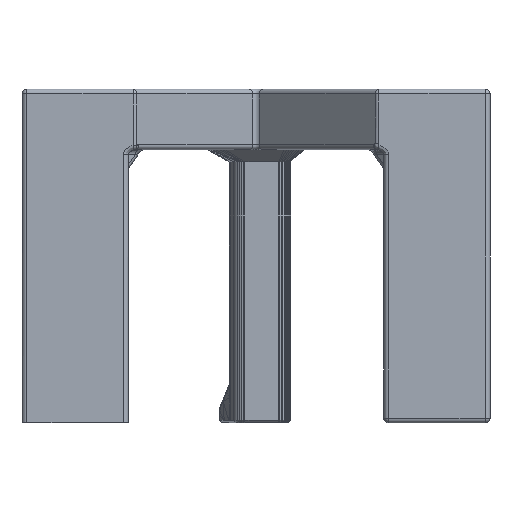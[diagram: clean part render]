
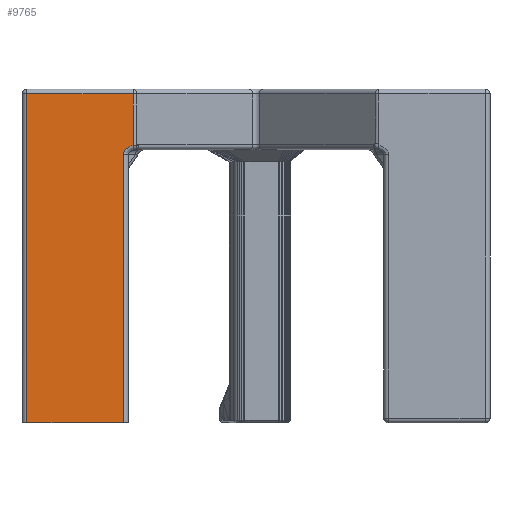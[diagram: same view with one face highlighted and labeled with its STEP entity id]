
A CAD part, front view. The second image highlights one B-rep face of the part: STEP entity #9765.
In plain terms, the highlighted planar face has unit normal (0, -1, 0).
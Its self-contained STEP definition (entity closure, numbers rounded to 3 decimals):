
#121=B_SPLINE_CURVE_WITH_KNOTS('',3,(#15658,#15659,#15660,#15661,#15662,
#15663,#15664,#15665,#15666,#15667,#15668,#15669,#15670,#15671,#15672,#15673,
#15674,#15675,#15676,#15677,#15678,#15679,#15680,#15681,#15682,#15683,#15684,
#15685,#15686,#15687,#15688,#15689,#15690,#15691,#15692,#15693,#15694,#15695,
#15696,#15697,#15698,#15699,#15700,#15701,#15702,#15703,#15704,#15705,#15706,
#15707,#15708,#15709,#15710,#15711,#15712,#15713,#15714,#15715,#15716,#15717,
#15718,#15719,#15720,#15721),.UNSPECIFIED.,.F.,.F.,(4,3,3,3,3,3,3,3,3,3,
3,3,3,3,3,3,3,3,3,3,3,4),(3.142,3.214,3.286,
3.308,3.379,3.451,3.468,3.539,
3.611,3.624,3.696,3.77,3.778,
3.856,3.933,4.011,4.089,4.17,
4.248,4.324,4.399,4.415),
 .UNSPECIFIED.);
#208=PLANE('',#10479);
#807=LINE('',#15192,#2016);
#862=LINE('',#15980,#2071);
#942=LINE('',#16284,#2151);
#943=LINE('',#16287,#2152);
#944=LINE('',#16288,#2153);
#2016=VECTOR('',#11246,1000.);
#2071=VECTOR('',#11517,1000.);
#2151=VECTOR('',#11697,1000.);
#2152=VECTOR('',#11700,1000.);
#2153=VECTOR('',#11701,1000.);
#3295=FACE_OUTER_BOUND('',#3921,.T.);
#3921=EDGE_LOOP('',(#7571,#7572,#7573,#7574,#7575,#7576));
#4726=VERTEX_POINT('',#15187);
#4727=VERTEX_POINT('',#15191);
#4792=VERTEX_POINT('',#15655);
#4793=VERTEX_POINT('',#15657);
#4874=VERTEX_POINT('',#16282);
#4875=VERTEX_POINT('',#16286);
#5614=EDGE_CURVE('',#4727,#4726,#807,.T.);
#5725=EDGE_CURVE('',#4793,#4792,#121,.T.);
#5753=EDGE_CURVE('',#4792,#4727,#862,.T.);
#5852=EDGE_CURVE('',#4726,#4874,#942,.T.);
#5853=EDGE_CURVE('',#4874,#4875,#943,.T.);
#5854=EDGE_CURVE('',#4875,#4793,#944,.T.);
#7571=ORIENTED_EDGE('',*,*,#5852,.T.);
#7572=ORIENTED_EDGE('',*,*,#5853,.T.);
#7573=ORIENTED_EDGE('',*,*,#5854,.T.);
#7574=ORIENTED_EDGE('',*,*,#5725,.T.);
#7575=ORIENTED_EDGE('',*,*,#5753,.T.);
#7576=ORIENTED_EDGE('',*,*,#5614,.T.);
#9765=ADVANCED_FACE('',(#3295),#208,.F.);
#10479=AXIS2_PLACEMENT_3D('',#16285,#11698,#11699);
#11246=DIRECTION('',(-1.,0.,0.));
#11517=DIRECTION('',(0.,0.,1.));
#11697=DIRECTION('',(0.,0.,-1.));
#11698=DIRECTION('center_axis',(0.,1.,0.));
#11699=DIRECTION('ref_axis',(0.,0.,1.));
#11700=DIRECTION('',(1.,0.,0.));
#11701=DIRECTION('',(0.,0.,1.));
#15187=CARTESIAN_POINT('',(-42.815,3.866,220.668));
#15191=CARTESIAN_POINT('',(0.955,3.866,220.668));
#15192=CARTESIAN_POINT('',(-47.643,3.866,220.668));
#15655=CARTESIAN_POINT('',(0.955,3.866,199.493));
#15657=CARTESIAN_POINT('',(-3.045,3.866,195.668));
#15658=CARTESIAN_POINT('Ctrl Pts',(-3.045,3.866,195.668));
#15659=CARTESIAN_POINT('Ctrl Pts',(-3.045,3.866,195.759));
#15660=CARTESIAN_POINT('Ctrl Pts',(-3.041,3.866,195.85));
#15661=CARTESIAN_POINT('Ctrl Pts',(-3.032,3.866,195.941));
#15662=CARTESIAN_POINT('Ctrl Pts',(-3.023,3.866,196.034));
#15663=CARTESIAN_POINT('Ctrl Pts',(-3.01,3.866,196.126));
#15664=CARTESIAN_POINT('Ctrl Pts',(-2.991,3.866,196.22));
#15665=CARTESIAN_POINT('Ctrl Pts',(-2.986,3.866,196.247));
#15666=CARTESIAN_POINT('Ctrl Pts',(-2.98,3.866,196.275));
#15667=CARTESIAN_POINT('Ctrl Pts',(-2.974,3.866,196.303));
#15668=CARTESIAN_POINT('Ctrl Pts',(-2.953,3.866,196.394));
#15669=CARTESIAN_POINT('Ctrl Pts',(-2.927,3.866,196.486));
#15670=CARTESIAN_POINT('Ctrl Pts',(-2.897,3.866,196.578));
#15671=CARTESIAN_POINT('Ctrl Pts',(-2.866,3.866,196.671));
#15672=CARTESIAN_POINT('Ctrl Pts',(-2.831,3.866,196.764));
#15673=CARTESIAN_POINT('Ctrl Pts',(-2.79,3.866,196.856));
#15674=CARTESIAN_POINT('Ctrl Pts',(-2.781,3.866,196.877));
#15675=CARTESIAN_POINT('Ctrl Pts',(-2.771,3.866,196.899));
#15676=CARTESIAN_POINT('Ctrl Pts',(-2.761,3.866,196.921));
#15677=CARTESIAN_POINT('Ctrl Pts',(-2.719,3.866,197.012));
#15678=CARTESIAN_POINT('Ctrl Pts',(-2.671,3.866,197.102));
#15679=CARTESIAN_POINT('Ctrl Pts',(-2.619,3.866,197.192));
#15680=CARTESIAN_POINT('Ctrl Pts',(-2.566,3.866,197.283));
#15681=CARTESIAN_POINT('Ctrl Pts',(-2.508,3.866,197.372));
#15682=CARTESIAN_POINT('Ctrl Pts',(-2.446,3.866,197.461));
#15683=CARTESIAN_POINT('Ctrl Pts',(-2.435,3.866,197.476));
#15684=CARTESIAN_POINT('Ctrl Pts',(-2.424,3.866,197.492));
#15685=CARTESIAN_POINT('Ctrl Pts',(-2.412,3.866,197.507));
#15686=CARTESIAN_POINT('Ctrl Pts',(-2.348,3.866,197.595));
#15687=CARTESIAN_POINT('Ctrl Pts',(-2.278,3.866,197.682));
#15688=CARTESIAN_POINT('Ctrl Pts',(-2.204,3.866,197.767));
#15689=CARTESIAN_POINT('Ctrl Pts',(-2.129,3.866,197.853));
#15690=CARTESIAN_POINT('Ctrl Pts',(-2.05,3.866,197.937));
#15691=CARTESIAN_POINT('Ctrl Pts',(-1.965,3.866,198.019));
#15692=CARTESIAN_POINT('Ctrl Pts',(-1.956,3.866,198.029));
#15693=CARTESIAN_POINT('Ctrl Pts',(-1.946,3.866,198.038));
#15694=CARTESIAN_POINT('Ctrl Pts',(-1.937,3.866,198.047));
#15695=CARTESIAN_POINT('Ctrl Pts',(-1.847,3.866,198.132));
#15696=CARTESIAN_POINT('Ctrl Pts',(-1.753,3.866,198.215));
#15697=CARTESIAN_POINT('Ctrl Pts',(-1.654,3.866,198.295));
#15698=CARTESIAN_POINT('Ctrl Pts',(-1.556,3.866,198.375));
#15699=CARTESIAN_POINT('Ctrl Pts',(-1.453,3.866,198.453));
#15700=CARTESIAN_POINT('Ctrl Pts',(-1.346,3.866,198.527));
#15701=CARTESIAN_POINT('Ctrl Pts',(-1.238,3.866,198.601));
#15702=CARTESIAN_POINT('Ctrl Pts',(-1.126,3.866,198.673));
#15703=CARTESIAN_POINT('Ctrl Pts',(-1.011,3.866,198.741));
#15704=CARTESIAN_POINT('Ctrl Pts',(-0.895,3.866,198.809));
#15705=CARTESIAN_POINT('Ctrl Pts',(-0.777,3.866,198.873));
#15706=CARTESIAN_POINT('Ctrl Pts',(-0.655,3.866,198.934));
#15707=CARTESIAN_POINT('Ctrl Pts',(-0.528,3.866,198.997));
#15708=CARTESIAN_POINT('Ctrl Pts',(-0.399,3.866,199.057));
#15709=CARTESIAN_POINT('Ctrl Pts',(-0.267,3.866,199.112));
#15710=CARTESIAN_POINT('Ctrl Pts',(-0.142,3.866,199.164));
#15711=CARTESIAN_POINT('Ctrl Pts',(-0.015,3.866,199.212));
#15712=CARTESIAN_POINT('Ctrl Pts',(0.113,3.866,199.257));
#15713=CARTESIAN_POINT('Ctrl Pts',(0.239,3.866,199.301));
#15714=CARTESIAN_POINT('Ctrl Pts',(0.366,3.866,199.341));
#15715=CARTESIAN_POINT('Ctrl Pts',(0.494,3.866,199.378));
#15716=CARTESIAN_POINT('Ctrl Pts',(0.62,3.866,199.414));
#15717=CARTESIAN_POINT('Ctrl Pts',(0.746,3.866,199.446));
#15718=CARTESIAN_POINT('Ctrl Pts',(0.872,3.866,199.475));
#15719=CARTESIAN_POINT('Ctrl Pts',(0.899,3.866,199.481));
#15720=CARTESIAN_POINT('Ctrl Pts',(0.927,3.866,199.487));
#15721=CARTESIAN_POINT('Ctrl Pts',(0.955,3.866,199.493));
#15980=CARTESIAN_POINT('',(0.955,3.866,222.668));
#16282=CARTESIAN_POINT('',(-42.815,3.866,85.168));
#16284=CARTESIAN_POINT('',(-42.815,3.866,235.168));
#16285=CARTESIAN_POINT('Origin',(-47.643,3.866,210.168));
#16286=CARTESIAN_POINT('',(-3.045,3.866,85.168));
#16287=CARTESIAN_POINT('',(-47.643,3.866,85.168));
#16288=CARTESIAN_POINT('',(-3.045,3.866,185.168));
